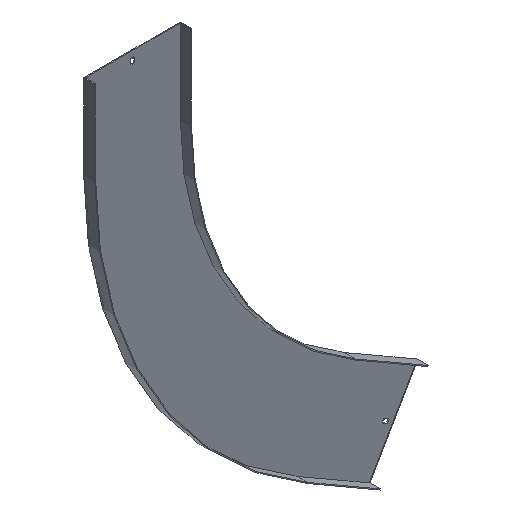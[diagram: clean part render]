
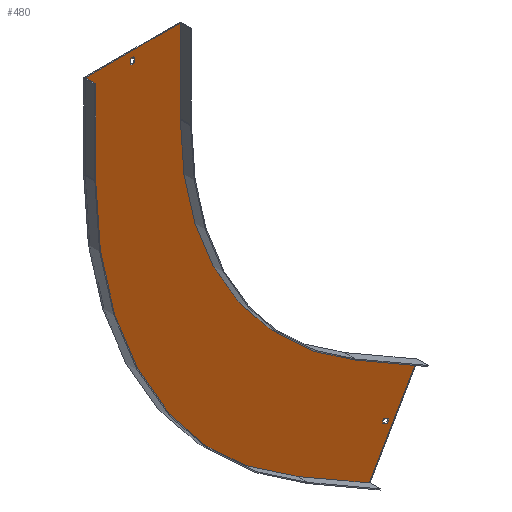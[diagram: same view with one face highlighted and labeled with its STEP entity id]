
A CAD part, isometric view. The second image highlights one B-rep face of the part: STEP entity #480.
In plain terms, the highlighted planar face has unit normal (0, -1, 0).
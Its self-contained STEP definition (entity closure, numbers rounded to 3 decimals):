
#1 = LINE ( 'NONE', #351, #433 ) ;
#7 = CARTESIAN_POINT ( 'NONE',  ( -227.408, -1.5, -651.882 ) ) ;
#8 = ORIENTED_EDGE ( 'NONE', *, *, #538, .F. ) ;
#27 = DIRECTION ( 'NONE',  ( 0., 1., 0. ) ) ;
#30 = ORIENTED_EDGE ( 'NONE', *, *, #607, .F. ) ;
#36 = DIRECTION ( 'NONE',  ( 0., -1., 0. ) ) ;
#37 = CARTESIAN_POINT ( 'NONE',  ( -590., -1.5, 150. ) ) ;
#39 = CARTESIAN_POINT ( 'NONE',  ( -339.125, -1.5, -587.382 ) ) ;
#46 = VERTEX_POINT ( 'NONE', #422 ) ;
#73 = VECTOR ( 'NONE', #789, 1000. ) ;
#76 = EDGE_CURVE ( 'NONE', #178, #604, #808, .T. ) ;
#79 = VERTEX_POINT ( 'NONE', #158 ) ;
#84 = LINE ( 'NONE', #627, #482 ) ;
#95 = DIRECTION ( 'NONE',  ( 0., 0., -1. ) ) ;
#101 = CARTESIAN_POINT ( 'NONE',  ( 0., -1.5, 0. ) ) ;
#103 = LINE ( 'NONE', #774, #783 ) ;
#107 = DIRECTION ( 'NONE',  ( -0.5, 0., -0.866 ) ) ;
#119 = CARTESIAN_POINT ( 'NONE',  ( -590., -1.5, 150. ) ) ;
#124 = VECTOR ( 'NONE', #107, 1000. ) ;
#137 = CARTESIAN_POINT ( 'NONE',  ( -760., -1.5, 150. ) ) ;
#139 = PLANE ( 'NONE',  #860 ) ;
#153 = EDGE_LOOP ( 'NONE', ( #297, #8, #200, #358 ) ) ;
#154 = VERTEX_POINT ( 'NONE', #556 ) ;
#158 = CARTESIAN_POINT ( 'NONE',  ( -590., -1.5, 0. ) ) ;
#165 = CARTESIAN_POINT ( 'NONE',  ( -671.75, -1.5, 138. ) ) ;
#169 = EDGE_CURVE ( 'NONE', #476, #662, #689, .T. ) ;
#170 = EDGE_CURVE ( 'NONE', #79, #525, #330, .T. ) ;
#173 = LINE ( 'NONE', #686, #629 ) ;
#178 = VERTEX_POINT ( 'NONE', #165 ) ;
#190 = CARTESIAN_POINT ( 'NONE',  ( -219.613, -1.5, -656.382 ) ) ;
#200 = ORIENTED_EDGE ( 'NONE', *, *, #169, .F. ) ;
#215 = ORIENTED_EDGE ( 'NONE', *, *, #239, .F. ) ;
#222 = VECTOR ( 'NONE', #237, 1000. ) ;
#237 = DIRECTION ( 'NONE',  ( -1., 0., 0. ) ) ;
#239 = EDGE_CURVE ( 'NONE', #606, #842, #173, .T. ) ;
#245 = DIRECTION ( 'NONE',  ( 0., 0., 1. ) ) ;
#250 = DIRECTION ( 'NONE',  ( 1., 0., 0. ) ) ;
#259 = VECTOR ( 'NONE', #391, 1000. ) ;
#267 = VERTEX_POINT ( 'NONE', #826 ) ;
#272 = VECTOR ( 'NONE', #345, 1000. ) ;
#274 = VECTOR ( 'NONE', #636, 1000. ) ;
#280 = VERTEX_POINT ( 'NONE', #383 ) ;
#281 = DIRECTION ( 'NONE',  ( 0., 0., -1. ) ) ;
#284 = FACE_BOUND ( 'NONE', #855, .T. ) ;
#297 = ORIENTED_EDGE ( 'NONE', *, *, #723, .F. ) ;
#305 = CARTESIAN_POINT ( 'NONE',  ( 119.512, -1.5, -69. ) ) ;
#317 = LINE ( 'NONE', #458, #259 ) ;
#330 = CIRCLE ( 'NONE', #799, 590. ) ;
#331 = ORIENTED_EDGE ( 'NONE', *, *, #470, .T. ) ;
#342 = CARTESIAN_POINT ( 'NONE',  ( -678.25, -1.5, 0. ) ) ;
#343 = VERTEX_POINT ( 'NONE', #767 ) ;
#345 = DIRECTION ( 'NONE',  ( 0., 0., -1. ) ) ;
#351 = CARTESIAN_POINT ( 'NONE',  ( -250.096, -1.5, -733.179 ) ) ;
#358 = ORIENTED_EDGE ( 'NONE', *, *, #406, .F. ) ;
#369 = VERTEX_POINT ( 'NONE', #456 ) ;
#372 = CARTESIAN_POINT ( 'NONE',  ( 0., -1.5, 0. ) ) ;
#379 = DIRECTION ( 'NONE',  ( 0., 0., -1. ) ) ;
#383 = CARTESIAN_POINT ( 'NONE',  ( -165.096, -1.5, -585.955 ) ) ;
#389 = AXIS2_PLACEMENT_3D ( 'NONE', #101, #27, #379 ) ;
#391 = DIRECTION ( 'NONE',  ( -0.866, 0., 0.5 ) ) ;
#393 = ORIENTED_EDGE ( 'NONE', *, *, #506, .F. ) ;
#400 = ORIENTED_EDGE ( 'NONE', *, *, #613, .T. ) ;
#405 = DIRECTION ( 'NONE',  ( 0., -1., 0. ) ) ;
#406 = EDGE_CURVE ( 'NONE', #852, #476, #851, .T. ) ;
#407 = ORIENTED_EDGE ( 'NONE', *, *, #443, .F. ) ;
#410 = LINE ( 'NONE', #37, #745 ) ;
#422 = CARTESIAN_POINT ( 'NONE',  ( -678.25, -1.5, 129. ) ) ;
#433 = VECTOR ( 'NONE', #487, 1000. ) ;
#437 = DIRECTION ( 'NONE',  ( -0.5, 0., -0.866 ) ) ;
#443 = EDGE_CURVE ( 'NONE', #154, #343, #1, .T. ) ;
#447 = CARTESIAN_POINT ( 'NONE',  ( 111.717, -1.5, -64.5 ) ) ;
#456 = CARTESIAN_POINT ( 'NONE',  ( -678.25, -1.5, 138. ) ) ;
#458 = CARTESIAN_POINT ( 'NONE',  ( -335.875, -1.5, -581.753 ) ) ;
#470 = EDGE_CURVE ( 'NONE', #46, #369, #605, .T. ) ;
#476 = VERTEX_POINT ( 'NONE', #7 ) ;
#480 = ADVANCED_FACE ( 'NONE', ( #596, #856, #284 ), #139, .T. ) ;
#482 = VECTOR ( 'NONE', #437, 1000. ) ;
#487 = DIRECTION ( 'NONE',  ( -0.866, 0., 0.5 ) ) ;
#503 = LINE ( 'NONE', #305, #818 ) ;
#506 = EDGE_CURVE ( 'NONE', #701, #79, #410, .T. ) ;
#525 = VERTEX_POINT ( 'NONE', #819 ) ;
#527 = ORIENTED_EDGE ( 'NONE', *, *, #76, .T. ) ;
#532 = CARTESIAN_POINT ( 'NONE',  ( 0., -1.5, 0. ) ) ;
#535 = CARTESIAN_POINT ( 'NONE',  ( -761.5, -1.5, 150. ) ) ;
#538 = EDGE_CURVE ( 'NONE', #662, #267, #503, .T. ) ;
#548 = VECTOR ( 'NONE', #594, 1000. ) ;
#555 = DIRECTION ( 'NONE',  ( 0., 0., -1. ) ) ;
#556 = CARTESIAN_POINT ( 'NONE',  ( -250.096, -1.5, -733.179 ) ) ;
#559 = DIRECTION ( 'NONE',  ( 0.866, 0., -0.5 ) ) ;
#592 = EDGE_LOOP ( 'NONE', ( #609, #215, #720, #407, #30, #739, #679, #393 ) ) ;
#594 = DIRECTION ( 'NONE',  ( 1., 0., 0. ) ) ;
#596 = FACE_BOUND ( 'NONE', #153, .T. ) ;
#604 = VERTEX_POINT ( 'NONE', #753 ) ;
#605 = LINE ( 'NONE', #342, #73 ) ;
#606 = VERTEX_POINT ( 'NONE', #810 ) ;
#607 = EDGE_CURVE ( 'NONE', #280, #154, #84, .T. ) ;
#609 = ORIENTED_EDGE ( 'NONE', *, *, #827, .F. ) ;
#613 = EDGE_CURVE ( 'NONE', #604, #46, #623, .T. ) ;
#623 = LINE ( 'NONE', #822, #222 ) ;
#627 = CARTESIAN_POINT ( 'NONE',  ( -164.346, -1.5, -584.656 ) ) ;
#629 = VECTOR ( 'NONE', #245, 1000. ) ;
#636 = DIRECTION ( 'NONE',  ( 0.866, 0., -0.5 ) ) ;
#638 = EDGE_CURVE ( 'NONE', #343, #606, #717, .T. ) ;
#650 = CARTESIAN_POINT ( 'NONE',  ( -295., -1.5, -510.955 ) ) ;
#661 = CARTESIAN_POINT ( 'NONE',  ( -224.158, -1.5, -646.253 ) ) ;
#662 = VERTEX_POINT ( 'NONE', #190 ) ;
#676 = ORIENTED_EDGE ( 'NONE', *, *, #758, .T. ) ;
#679 = ORIENTED_EDGE ( 'NONE', *, *, #170, .F. ) ;
#686 = CARTESIAN_POINT ( 'NONE',  ( -760., -1.5, 0. ) ) ;
#689 = LINE ( 'NONE', #39, #690 ) ;
#690 = VECTOR ( 'NONE', #559, 1000. ) ;
#701 = VERTEX_POINT ( 'NONE', #119 ) ;
#708 = LINE ( 'NONE', #650, #274 ) ;
#716 = LINE ( 'NONE', #535, #548 ) ;
#717 = CIRCLE ( 'NONE', #389, 760. ) ;
#720 = ORIENTED_EDGE ( 'NONE', *, *, #638, .F. ) ;
#723 = EDGE_CURVE ( 'NONE', #267, #852, #317, .T. ) ;
#733 = CARTESIAN_POINT ( 'NONE',  ( -671.75, -1.5, 0. ) ) ;
#739 = ORIENTED_EDGE ( 'NONE', *, *, #763, .F. ) ;
#742 = DIRECTION ( 'NONE',  ( 0.5, 0., 0.866 ) ) ;
#745 = VECTOR ( 'NONE', #555, 1000. ) ;
#753 = CARTESIAN_POINT ( 'NONE',  ( -671.75, -1.5, 129. ) ) ;
#758 = EDGE_CURVE ( 'NONE', #369, #178, #103, .T. ) ;
#763 = EDGE_CURVE ( 'NONE', #525, #280, #708, .T. ) ;
#767 = CARTESIAN_POINT ( 'NONE',  ( -380., -1.5, -658.179 ) ) ;
#774 = CARTESIAN_POINT ( 'NONE',  ( 0., -1.5, 138. ) ) ;
#783 = VECTOR ( 'NONE', #250, 1000. ) ;
#789 = DIRECTION ( 'NONE',  ( 0., 0., 1. ) ) ;
#799 = AXIS2_PLACEMENT_3D ( 'NONE', #372, #36, #95 ) ;
#808 = LINE ( 'NONE', #733, #272 ) ;
#810 = CARTESIAN_POINT ( 'NONE',  ( -760., -1.5, 0. ) ) ;
#818 = VECTOR ( 'NONE', #742, 1000. ) ;
#819 = CARTESIAN_POINT ( 'NONE',  ( -295., -1.5, -510.955 ) ) ;
#822 = CARTESIAN_POINT ( 'NONE',  ( 0., -1.5, 129. ) ) ;
#826 = CARTESIAN_POINT ( 'NONE',  ( -216.363, -1.5, -650.753 ) ) ;
#827 = EDGE_CURVE ( 'NONE', #842, #701, #716, .T. ) ;
#842 = VERTEX_POINT ( 'NONE', #137 ) ;
#851 = LINE ( 'NONE', #447, #124 ) ;
#852 = VERTEX_POINT ( 'NONE', #661 ) ;
#855 = EDGE_LOOP ( 'NONE', ( #676, #527, #400, #331 ) ) ;
#856 = FACE_OUTER_BOUND ( 'NONE', #592, .T. ) ;
#860 = AXIS2_PLACEMENT_3D ( 'NONE', #532, #405, #281 ) ;
